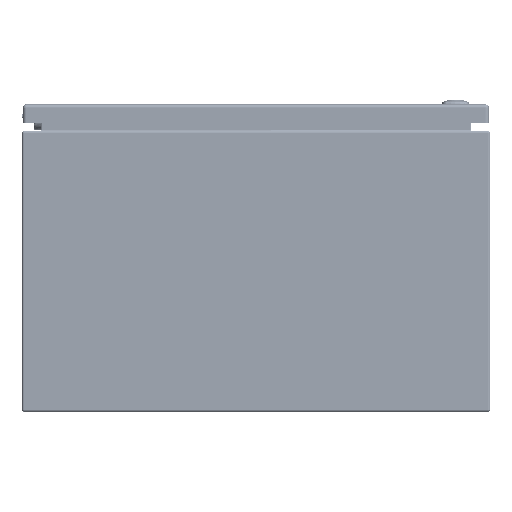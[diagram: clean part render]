
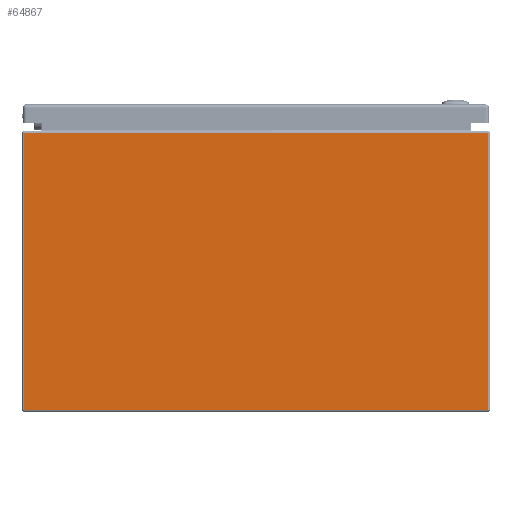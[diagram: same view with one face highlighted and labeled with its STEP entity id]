
A CAD part, front view. The second image highlights one B-rep face of the part: STEP entity #64867.
In plain terms, the highlighted planar face has unit normal (0, -1, 0).
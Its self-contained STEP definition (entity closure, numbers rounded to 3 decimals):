
#6068=LINE('',#91640,#10156);
#6075=LINE('',#91655,#10163);
#6077=LINE('',#91662,#10165);
#6079=LINE('',#91671,#10167);
#10156=VECTOR('',#75788,0.394);
#10163=VECTOR('',#75801,0.394);
#10165=VECTOR('',#75809,0.394);
#10167=VECTOR('',#75821,0.394);
#15325=FACE_OUTER_BOUND('',#19372,.T.);
#19372=EDGE_LOOP('',(#43194,#43195,#43196,#43197));
#26166=VERTEX_POINT('',#91610);
#26173=VERTEX_POINT('',#91636);
#26178=VERTEX_POINT('',#91654);
#26180=VERTEX_POINT('',#91660);
#32706=EDGE_CURVE('',#26166,#26173,#6068,.T.);
#32713=EDGE_CURVE('',#26173,#26178,#6075,.T.);
#32717=EDGE_CURVE('',#26180,#26166,#6077,.T.);
#32722=EDGE_CURVE('',#26180,#26178,#6079,.T.);
#43194=ORIENTED_EDGE('',*,*,#32706,.F.);
#43195=ORIENTED_EDGE('',*,*,#32717,.F.);
#43196=ORIENTED_EDGE('',*,*,#32722,.T.);
#43197=ORIENTED_EDGE('',*,*,#32713,.F.);
#63456=PLANE('',#69799);
#64867=ADVANCED_FACE('',(#15325),#63456,.F.);
#69799=AXIS2_PLACEMENT_3D('',#91682,#75835,#75836);
#75788=DIRECTION('',(1.,0.,0.));
#75801=DIRECTION('',(0.,0.,-1.));
#75809=DIRECTION('',(0.,0.,1.));
#75821=DIRECTION('',(1.,0.,0.));
#75835=DIRECTION('center_axis',(0.,1.,0.));
#75836=DIRECTION('ref_axis',(0.,0.,1.));
#91610=CARTESIAN_POINT('',(-9.916,-12.,11.916));
#91636=CARTESIAN_POINT('',(9.916,-12.,11.916));
#91640=CARTESIAN_POINT('',(4.979,-12.,11.916));
#91654=CARTESIAN_POINT('',(9.916,-12.,0.084));
#91655=CARTESIAN_POINT('',(9.916,-12.,6.));
#91660=CARTESIAN_POINT('',(-9.916,-12.,0.084));
#91662=CARTESIAN_POINT('',(-9.916,-12.,6.));
#91671=CARTESIAN_POINT('',(-4.958,-12.,0.084));
#91682=CARTESIAN_POINT('Origin',(0.,-12.,6.));
